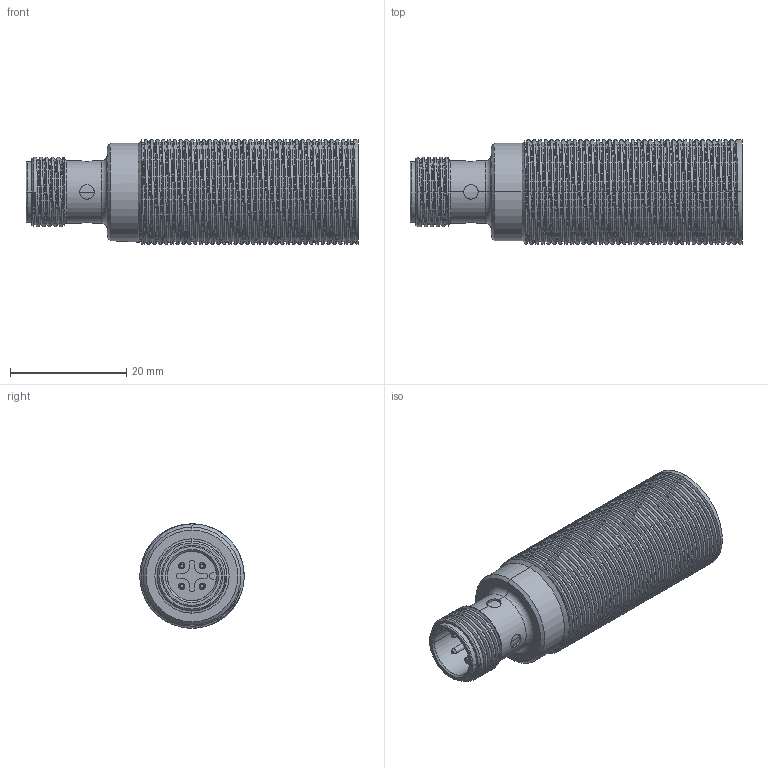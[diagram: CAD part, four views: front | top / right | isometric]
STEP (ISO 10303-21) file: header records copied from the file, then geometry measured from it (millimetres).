
FILE_DESCRIPTION (( 'STEP AP203' ), '1' );
FILE_NAME ('M18 ょす.STEP', '2025-08-12T02:20:20', ( 'holysai' ), ( '' ), 'SwSTEP 2.0', 'SolidWorks 2022', '' );
FILE_SCHEMA (( 'CONFIG_CONTROL_DESIGN' ));
Length unit declared in the file: millimetre
Products named in the file (1): M18 齐平
Bounding box: 57.2 x 18 x 18 mm (x, y, z)
Volume: 11236.2 mm3; surface area: 5710.8 mm2
Topology: 1 solids, 1 shells, 214 faces, 565 edges, 367 vertices
Faces by surface type: cylinder 146, plane 34, cone 24, bspline 6, torus 4
Entity records: 14267 total; most frequent: CARTESIAN_POINT 9374, ORIENTED_EDGE 1130, DIRECTION 907, EDGE_CURVE 565, VERTEX_POINT 367, AXIS2_PLACEMENT_3D 348, EDGE_LOOP 236, ADVANCED_FACE 214
